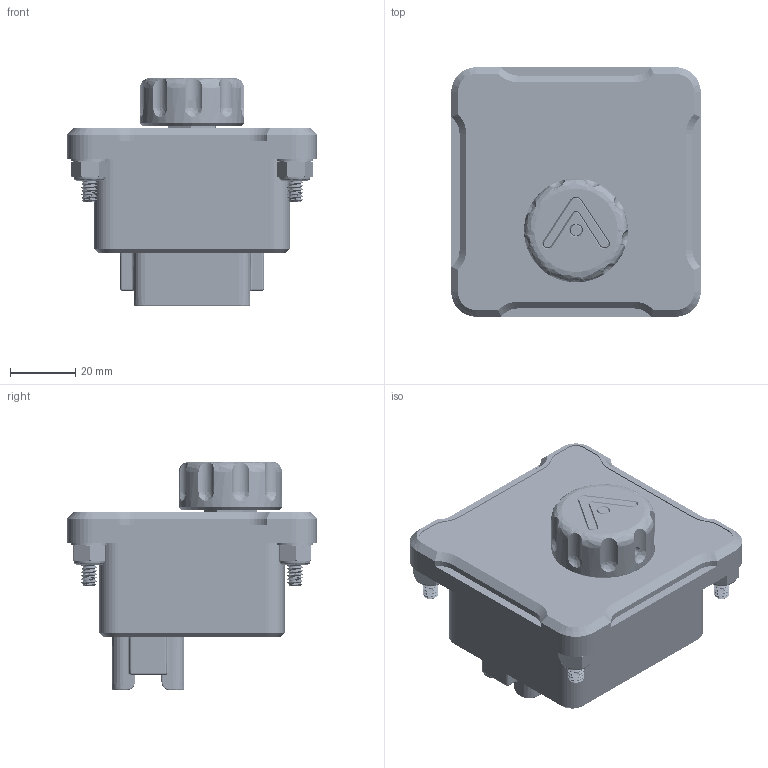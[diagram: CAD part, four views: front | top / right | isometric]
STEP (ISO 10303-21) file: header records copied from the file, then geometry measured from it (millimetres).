
FILE_DESCRIPTION (( 'STEP AP214' ), '1' );
FILE_NAME ('ASWC-R3PN-JA0.STEP', '2019-05-07T14:34:31', ( '' ), ( '' ), 'SwSTEP 2.0', 'SolidWorks 2014', '' );
FILE_SCHEMA (( 'AUTOMOTIVE_DESIGN' ));
Length unit declared in the file: inch
Products named in the file (62): 91831A011_TYPE 18-8 STAINLESS STL NYLON-INSERT LOCKNUT (1)_91831A011; apbda3020; hdr-1x4sz_2.54_10x5; Board_STEP_FILE_FOR_JAMIE_1A2; 93580A155_PEM R  PRESS-IN STUD_93580A155; 90107A011_TYPE 316 STAINLESS STEEL FLAT WASHER (1)_90107A011; Bottom PCB; SW3dPS-1206_SMD_Capacitor; Part22^AxleTech Dial V1; GreyHill 24001-03N; Potting Compound; c-dtf15-12pb-99-3d; Label; sot223-4; AxleTech Dial Body; Machined Dial Knob; ASWC-R3PN-JA0; Axlteck_Knob_Backlight_1A2
Assembly tree (45 placements, depth 3):
  91831A011_TYPE 18-8 STAINLESS STL NYLON-INSERT LOCKNUT (1)_91831A011
  apbda3020
  91831A011_TYPE 18-8 STAINLESS STL NYLON-INSERT LOCKNUT (1)_91831A011
  apbda3020
  91831A011_TYPE 18-8 STAINLESS STL NYLON-INSERT LOCKNUT (1)_91831A011
Bounding box: 76.2 x 76.2 x 69.8 mm (x, y, z)
Volume: 157081.2 mm3; surface area: 88756.7 mm2
Topology: 162 solids, 162 shells, 7997 faces, 20635 edges, 13360 vertices
Faces by surface type: plane 4389, bspline 1952, cylinder 1118, cone 371, torus 95, sphere 72
Entity records: 128316 total; most frequent: CARTESIAN_POINT 43748, ORIENTED_EDGE 11610, DIRECTION 10248, EDGE_CURVE 5805, VERTEX_POINT 3703, AXIS2_PLACEMENT_3D 3426, VECTOR 3396, LINE 3396
